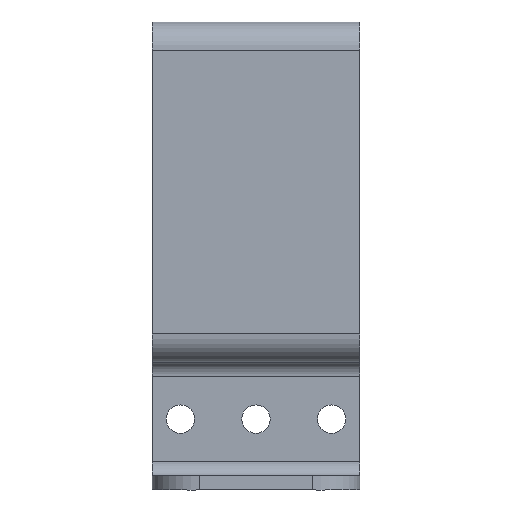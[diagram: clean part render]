
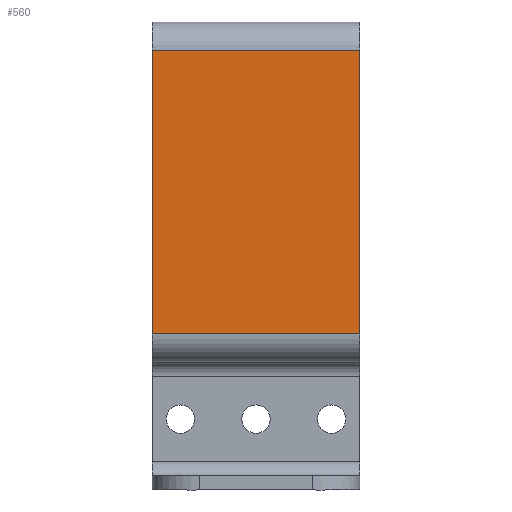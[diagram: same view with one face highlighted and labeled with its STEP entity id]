
A CAD part, front view. The second image highlights one B-rep face of the part: STEP entity #560.
In plain terms, the highlighted planar face has unit normal (0, -1, 0).
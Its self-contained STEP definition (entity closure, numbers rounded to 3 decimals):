
#17 = CARTESIAN_POINT ( 'NONE',  ( 11., -35., 1.5 ) ) ;
#44 = VERTEX_POINT ( 'NONE', #1211 ) ;
#159 = ORIENTED_EDGE ( 'NONE', *, *, #1082, .T. ) ;
#177 = CARTESIAN_POINT ( 'NONE',  ( -11., -35., 0. ) ) ;
#193 = EDGE_CURVE ( 'NONE', #1071, #44, #439, .T. ) ;
#209 = EDGE_CURVE ( 'NONE', #1071, #438, #985, .T. ) ;
#344 = EDGE_LOOP ( 'NONE', ( #159, #607, #1158, #347 ) ) ;
#347 = ORIENTED_EDGE ( 'NONE', *, *, #193, .T. ) ;
#406 = FACE_OUTER_BOUND ( 'NONE', #344, .T. ) ;
#413 = PLANE ( 'NONE',  #1331 ) ;
#438 = VERTEX_POINT ( 'NONE', #627 ) ;
#439 = LINE ( 'NONE', #753, #557 ) ;
#461 = DIRECTION ( 'NONE',  ( 0., 0., 1. ) ) ;
#475 = LINE ( 'NONE', #177, #574 ) ;
#557 = VECTOR ( 'NONE', #461, 1000. ) ;
#560 = ADVANCED_FACE ( 'NONE', ( #406 ), #413, .F. ) ;
#574 = VECTOR ( 'NONE', #786, 1000. ) ;
#607 = ORIENTED_EDGE ( 'NONE', *, *, #694, .T. ) ;
#627 = CARTESIAN_POINT ( 'NONE',  ( -11., -35., 1.5 ) ) ;
#647 = DIRECTION ( 'NONE',  ( -1., 0., 0. ) ) ;
#694 = EDGE_CURVE ( 'NONE', #1231, #438, #475, .T. ) ;
#725 = CARTESIAN_POINT ( 'NONE',  ( -11., -35., 31.5 ) ) ;
#753 = CARTESIAN_POINT ( 'NONE',  ( 11., -35., 0. ) ) ;
#786 = DIRECTION ( 'NONE',  ( 0., 0., -1. ) ) ;
#831 = CARTESIAN_POINT ( 'NONE',  ( 0., -35., 0. ) ) ;
#871 = VECTOR ( 'NONE', #1010, 1000. ) ;
#985 = LINE ( 'NONE', #1162, #1309 ) ;
#1010 = DIRECTION ( 'NONE',  ( -1., 0., 0. ) ) ;
#1071 = VERTEX_POINT ( 'NONE', #17 ) ;
#1082 = EDGE_CURVE ( 'NONE', #44, #1231, #1115, .T. ) ;
#1091 = CARTESIAN_POINT ( 'NONE',  ( 11., -35., 31.5 ) ) ;
#1115 = LINE ( 'NONE', #1091, #871 ) ;
#1149 = DIRECTION ( 'NONE',  ( 0., 0., 1. ) ) ;
#1158 = ORIENTED_EDGE ( 'NONE', *, *, #209, .F. ) ;
#1162 = CARTESIAN_POINT ( 'NONE',  ( -11., -35., 1.5 ) ) ;
#1211 = CARTESIAN_POINT ( 'NONE',  ( 11., -35., 31.5 ) ) ;
#1231 = VERTEX_POINT ( 'NONE', #725 ) ;
#1248 = DIRECTION ( 'NONE',  ( 0., 1., 0. ) ) ;
#1309 = VECTOR ( 'NONE', #647, 1000. ) ;
#1331 = AXIS2_PLACEMENT_3D ( 'NONE', #831, #1248, #1149 ) ;
